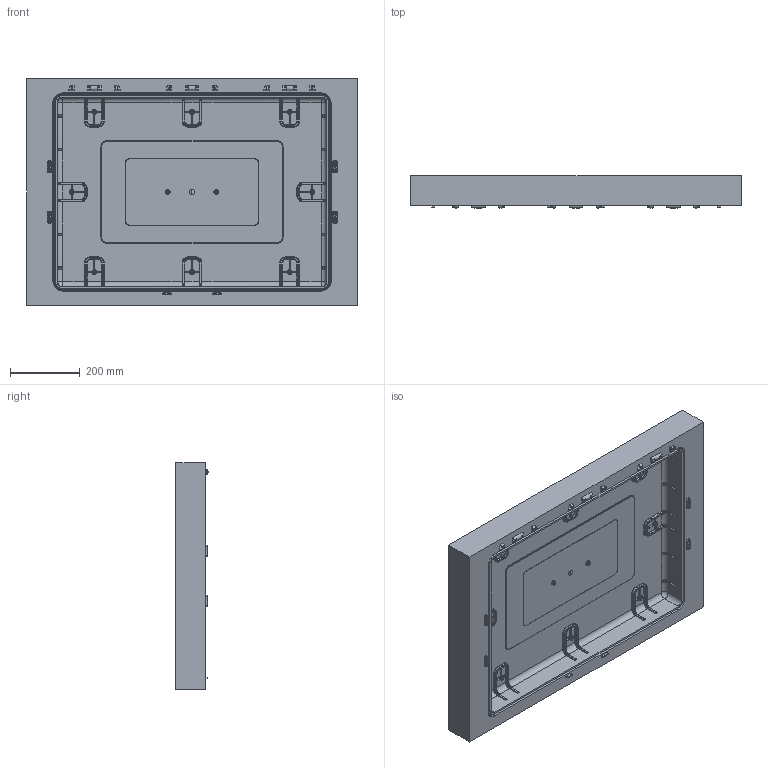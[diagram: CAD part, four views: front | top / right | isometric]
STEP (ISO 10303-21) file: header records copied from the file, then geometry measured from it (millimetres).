
FILE_DESCRIPTION (( 'STEP AP203' ), '1' );
FILE_NAME ('B&W Type 7800 - Lid - inside.STEP', '2019-02-18T10:28:55', ( '' ), ( '' ), 'SwSTEP 2.0', 'SolidWorks 2018', '' );
FILE_SCHEMA (( 'CONFIG_CONTROL_DESIGN' ));
Products named in the file (1): B&W Type 7800 - Lid - inside
Bounding box: 950 x 92.75 x 650 mm (x, y, z)
Volume: 24240442.7 mm3; surface area: 1764944.3 mm2
Topology: 1 solids, 1 shells, 2261 faces, 5490 edges, 3235 vertices
Faces by surface type: cylinder 692, bspline 603, plane 584, torus 264, cone 76, sphere 42
Entity records: 92782 total; most frequent: CARTESIAN_POINT 45353, ORIENTED_EDGE 10796, DIRECTION 8893, EDGE_CURVE 5398, AXIS2_PLACEMENT_3D 3344, VERTEX_POINT 3199, EDGE_LOOP 2339, FACE_OUTER_BOUND 2261
